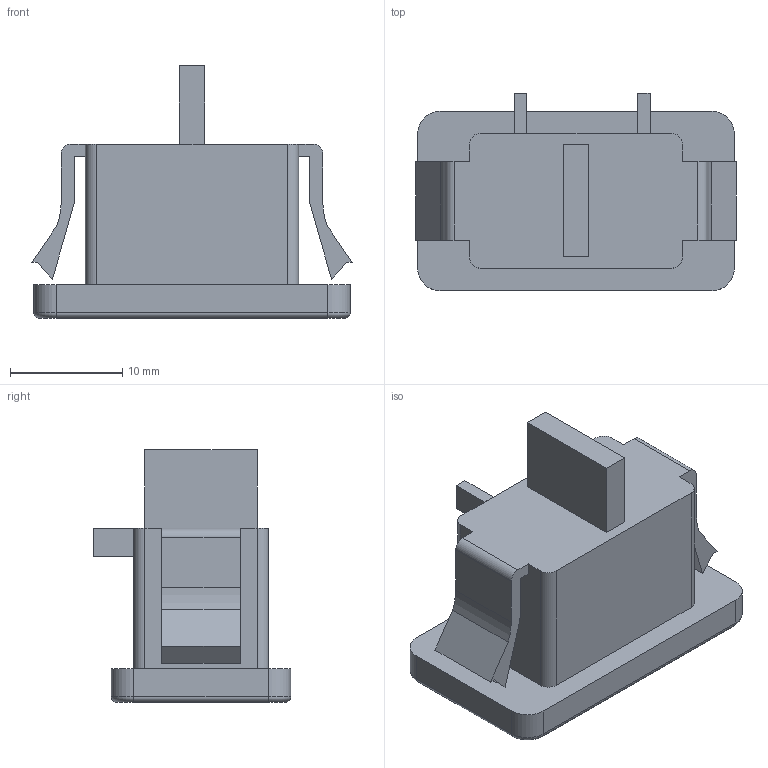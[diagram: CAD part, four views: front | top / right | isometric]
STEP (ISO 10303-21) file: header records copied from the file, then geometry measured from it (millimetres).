
FILE_DESCRIPTION (( 'STEP AP214' ), '1' );
FILE_NAME ('IEC.STEP', '2014-12-10T20:22:45', ( '' ), ( '' ), 'SwSTEP 2.0', 'SolidWorks 2014', '' );
FILE_SCHEMA (( 'AUTOMOTIVE_DESIGN' ));
Length unit declared in the file: millimetre
Products named in the file (1): IEC
Bounding box: 28.55 x 17.6 x 22.5 mm (x, y, z)
Volume: 3358.7 mm3; surface area: 3442.2 mm2
Topology: 1 solids, 1 shells, 96 faces, 253 edges, 164 vertices
Faces by surface type: plane 55, cylinder 33, sphere 4, torus 4
Entity records: 3135 total; most frequent: DIRECTION 513, CARTESIAN_POINT 502, ORIENTED_EDGE 490, EDGE_CURVE 245, AXIS2_PLACEMENT_3D 171, VECTOR 171, LINE 171, VERTEX_POINT 160
